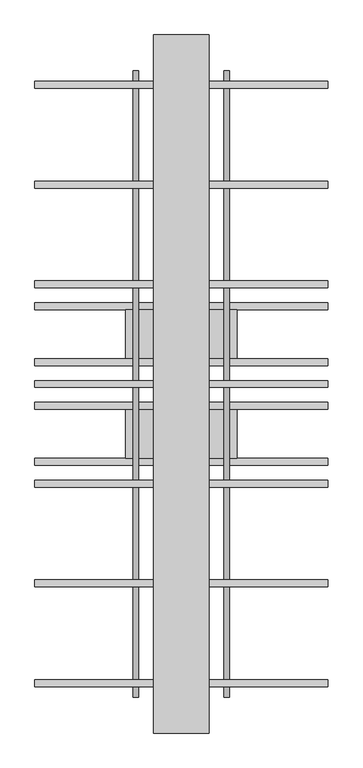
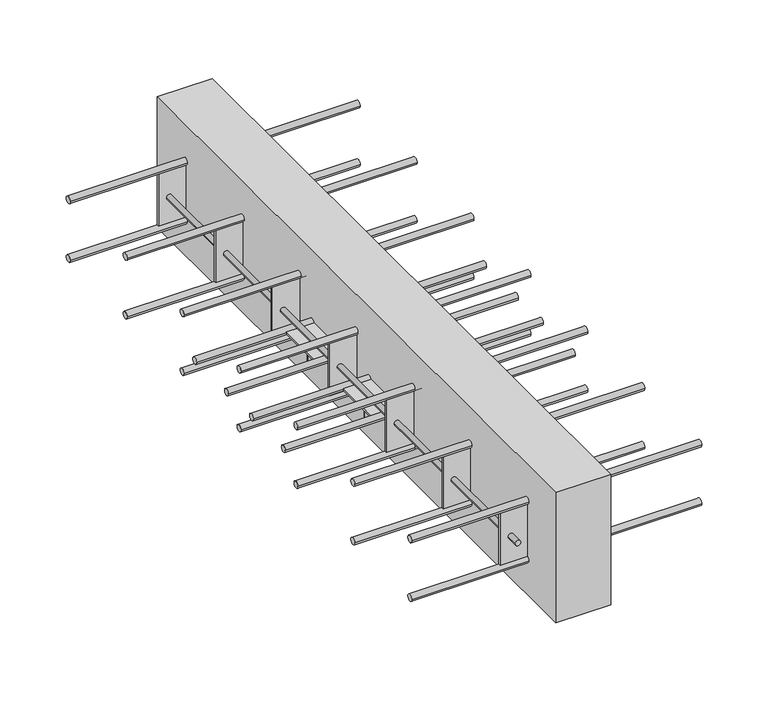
"""IFC4 building model written with IfcOpenShell, lengths in millimetres: fastener geometry, ACINOXplus_Typenreihe_Q : QF+ S2."""

import ifcopenshell
import ifcopenshell.guid

model = None  # the IFC model being written
_history = None  # IfcOwnerHistory: only IFC2X3 demands one
_inside = {}  # id of a spatial element -> (the spatial element, [elements in it])
_under = {}  # id of a project, library or spatial element -> (it, [spatial elements below it])
_declared = {}  # id of a project -> (the project, [libraries it declares])
_typed = {}  # id of a type object -> (the type object, [elements of that type])
_made_of = {}  # id of a material, layer set ... -> (it, [elements and type objects made of it])


def new_model(schema):
    """Start an empty IFC model of exactly this schema.

    Asked for "IFC4X3", IfcOpenShell would pick the latest addendum, in which some entities
    have other attributes; the version numbers below select the first issue.
    IFC2X3 requires an IfcOwnerHistory on every rooted entity: one is made here for all.
    """
    global model, _history
    if schema == "IFC4X3":
        model = ifcopenshell.file(schema_version=(4, 3, 0, 0))
    else:
        model = ifcopenshell.file(schema=schema)
    _inside.clear()
    _under.clear()
    _declared.clear()
    _typed.clear()
    _made_of.clear()
    _history = None
    if model.schema == "IFC2X3":
        org = make("IfcOrganization", Name="unknown")
        user = make(
            "IfcPersonAndOrganization",
            ThePerson=make("IfcPerson", FamilyName="unknown"),
            TheOrganization=org,
        )
        app = make(
            "IfcApplication",
            ApplicationDeveloper=org,
            Version="unknown",
            ApplicationFullName="unknown",
            ApplicationIdentifier="unknown",
        )
        _history = make(
            "IfcOwnerHistory",
            OwningUser=user,
            OwningApplication=app,
            ChangeAction="ADDED",
            CreationDate=0,
        )
    return model


def make(cls, **values):
    """One entity of the class cls with the attributes given. An attribute that is None is left unset."""
    return model.create_entity(
        cls, **{name: value for name, value in values.items() if value is not None}
    )


def rooted(cls, **values):
    """An entity with a GlobalId (a new one), such as an element, a storey or a relation."""
    return make(cls, GlobalId=ifcopenshell.guid.new(), OwnerHistory=_history, **values)


def si_unit(unit_type, name, prefix=None):
    """IfcSIUnit, for example si_unit("LENGTHUNIT", "METRE", prefix="MILLI")."""
    return make("IfcSIUnit", UnitType=unit_type, Prefix=prefix, Name=name)


def assignment(units):
    """IfcUnitAssignment: the units of a project."""
    return None if units is None else make("IfcUnitAssignment", Units=units)


def point(xyz):
    """IfcCartesianPoint."""
    return None if xyz is None else make("IfcCartesianPoint", Coordinates=xyz)


def direction(xyz):
    """IfcDirection."""
    return None if xyz is None else make("IfcDirection", DirectionRatios=xyz)


def frame(location, z_axis=None, x_axis=None):
    """IfcAxis2Placement3D, a coordinate frame: its origin and axes. An axis left out is left unset."""
    return make(
        "IfcAxis2Placement3D",
        Location=point(location),
        Axis=direction(z_axis),
        RefDirection=direction(x_axis),
    )


def frame_2d(location, x_axis=None):
    """IfcAxis2Placement2D, a coordinate frame in the plane: its origin and x axis."""
    return make(
        "IfcAxis2Placement2D", Location=point(location), RefDirection=direction(x_axis)
    )


def origin():
    """The frame at (0, 0, 0) with its axes left unset."""
    return frame((0.0, 0.0, 0.0))


def place(relative_to, where):
    """IfcLocalPlacement: puts the frame where relative to a parent placement (None: the world)."""
    return make(
        "IfcLocalPlacement", PlacementRelTo=relative_to, RelativePlacement=where
    )


def context(
    kind, dimensions, precision=None, world=None, true_north=None, identifier=None
):
    """IfcGeometricRepresentationContext, for example the 3D "Model" context."""
    return make(
        "IfcGeometricRepresentationContext",
        ContextIdentifier=identifier,
        ContextType=kind,
        CoordinateSpaceDimension=dimensions,
        Precision=precision,
        WorldCoordinateSystem=world,
        TrueNorth=true_north,
    )


def project(units=None, contexts=None):
    """IfcProject with its units and contexts."""
    return rooted(
        "IfcProject",
        Name="project",
        RepresentationContexts=contexts,
        UnitsInContext=assignment(units),
    )


def spatial(cls, under=None, at=None, **own):
    """A site, building, storey or space (cls), placed at a placement, below another one or the project."""
    s = rooted(cls, ObjectPlacement=at, **own)
    if under is not None:
        _under.setdefault(under.id(), (under, []))[1].append(s)
    return s


def polyline(points):
    """IfcPolyline through the points."""
    return make("IfcPolyline", Points=[point(p) for p in points])


def circle_curve(where, radius):
    """IfcCircle in the frame where."""
    return make("IfcCircle", Position=where, Radius=radius)


def trimmed(basis, trim1, trim2, sense, master):
    """IfcTrimmedCurve: the piece of a basis curve between two trims."""
    return make(
        "IfcTrimmedCurve",
        BasisCurve=basis,
        Trim1=trim1,
        Trim2=trim2,
        SenseAgreement=sense,
        MasterRepresentation=master,
    )


def segment(curve, same_sense, transition):
    """IfcCompositeCurveSegment."""
    return make(
        "IfcCompositeCurveSegment",
        Transition=transition,
        SameSense=same_sense,
        ParentCurve=curve,
    )


def composite_curve(segments, self_intersect=None):
    """IfcCompositeCurve: segments joined end to end."""
    return make("IfcCompositeCurve", Segments=segments, SelfIntersect=self_intersect)


def outline(outer, holes=None, kind="AREA"):
    """IfcArbitraryClosedProfileDef: a profile drawn as a closed curve; with holes, ...WithVoids."""
    if holes is None:
        return make("IfcArbitraryClosedProfileDef", ProfileType=kind, OuterCurve=outer)
    return make(
        "IfcArbitraryProfileDefWithVoids",
        ProfileType=kind,
        OuterCurve=outer,
        InnerCurves=holes,
    )


def extrude(swept, where, along, depth):
    """IfcExtrudedAreaSolid: the profile swept, set in the frame where, extruded along a direction by depth."""
    return make(
        "IfcExtrudedAreaSolid",
        SweptArea=swept,
        Position=where,
        ExtrudedDirection=direction(along),
        Depth=depth,
    )


def shape(context_of_items, identifier, shape_type, items):
    """IfcShapeRepresentation: the items that make up one representation, for example the "Body"."""
    return make(
        "IfcShapeRepresentation",
        ContextOfItems=context_of_items,
        RepresentationIdentifier=identifier,
        RepresentationType=shape_type,
        Items=items,
    )


def source(mapping_origin, context_of_items, identifier, shape_type, items):
    """IfcRepresentationMap: a shape defined once, which mapped items show again and again."""
    return make(
        "IfcRepresentationMap",
        MappingOrigin=mapping_origin,
        MappedRepresentation=shape(context_of_items, identifier, shape_type, items),
    )


def transform(
    local_origin,
    x_axis=None,
    y_axis=None,
    z_axis=None,
    scale=None,
    scale2=None,
    scale3=None,
    uniform=True,
):
    """IfcCartesianTransformationOperator3D, or its non-uniform kind. x_axis, y_axis, z_axis: its Axis1, 2, 3."""
    if uniform:
        return make(
            "IfcCartesianTransformationOperator3D",
            Axis1=direction(x_axis),
            Axis2=direction(y_axis),
            LocalOrigin=point(local_origin),
            Scale=scale,
            Axis3=direction(z_axis),
        )
    return make(
        "IfcCartesianTransformationOperator3DnonUniform",
        Axis1=direction(x_axis),
        Axis2=direction(y_axis),
        LocalOrigin=point(local_origin),
        Scale=scale,
        Axis3=direction(z_axis),
        Scale2=scale2,
        Scale3=scale3,
    )


def mapped(mapping_source, mapping_target):
    """IfcMappedItem: shows the shape of a source again, moved by a transform."""
    return make(
        "IfcMappedItem", MappingSource=mapping_source, MappingTarget=mapping_target
    )


def made_of(thing, what):
    """Note that an element or type object is made of a material, layer set ...; save() writes the relation."""
    if what is not None:
        _made_of.setdefault(what.id(), (what, []))[1].append(thing)
    return thing


def element(
    cls,
    number,
    at=None,
    inside=None,
    cuts=None,
    type_object=None,
    material=None,
    context=None,
    identifier="Body",
    shape_type=None,
    held_by="IfcProductDefinitionShape",
    body=None,
    shapes=None,
    **own,
):
    """One element of the class cls, such as IfcWall. Its Tag is "e" and its number.

    at: its placement. inside: the storey or other place that contains it. cuts: it is an
    opening in that element (IfcRelVoidsElement). A single representation is given by context,
    identifier, shape_type and body (its items); several are given by shapes. held_by: the class
    of the entity that holds the representations. save() writes the other relations.
    """
    e = rooted(cls, Tag="e%d" % number, ObjectPlacement=at, **own)
    if body is not None:
        shapes = [shape(context, identifier, shape_type, body)]
    if shapes is not None:
        e.Representation = make(held_by, Representations=shapes)
    if inside is not None:
        _inside.setdefault(inside.id(), (inside, []))[1].append(e)
    if cuts is not None:
        rooted(
            "IfcRelVoidsElement", RelatingBuildingElement=cuts, RelatedOpeningElement=e
        )
    if type_object is not None:
        _typed.setdefault(type_object.id(), (type_object, []))[1].append(e)
    return made_of(e, material)


def aggregate(whole, parts):
    """IfcRelAggregates: a whole, such as a stair, and the parts it consists of."""
    return rooted("IfcRelAggregates", RelatingObject=whole, RelatedObjects=parts)


def save(model, path):
    """Write the relations noted so far, then the file.

    IfcRelAggregates (storeys below a building ...), IfcRelContainedInSpatialStructure (elements
    in a storey), IfcRelDefinesByType, IfcRelAssociatesMaterial and IfcRelDeclares: one each for
    every whole, place, type object, material and project.
    """
    for whole, parts in _under.values():
        aggregate(whole, parts)
    for where, things in _inside.values():
        rooted(
            "IfcRelContainedInSpatialStructure",
            RelatedElements=things,
            RelatingStructure=where,
        )
    for kind, things in _typed.values():
        rooted("IfcRelDefinesByType", RelatedObjects=things, RelatingType=kind)
    for what, things in _made_of.values():
        rooted("IfcRelAssociatesMaterial", RelatedObjects=things, RelatingMaterial=what)
    for by, libraries in _declared.values():
        rooted("IfcRelDeclares", RelatingContext=by, RelatedDefinitions=libraries)
    model.write(path)


def plane_surface(at):
    """IfcPlane: the flat surface through the origin of the frame at, square to its z axis."""
    return make("IfcPlane", Position=at)


def cylinder_surface(at, radius):
    """IfcCylindricalSurface: all points at the distance radius from the z axis of the frame at."""
    return make("IfcCylindricalSurface", Position=at, Radius=radius)


def advanced_brep(points, edges, surfaces, faces):
    """IfcAdvancedBrep: a solid bounded by faces that lie on surfaces and meet in shared edges.

    An edge is (start, end): straight between two places in points (the first is 0);
    or (start, end, curve); or (start, end, curve, False) where it runs against its curve.
    A face is (place in surfaces, loops), or (place, loops, False) where it looks against
    its surface's normal. A loop lists edges by number (the first is 1), with a minus sign
    where the edge is run from its end to its start. The first loop is the outer one.
    """
    corners = [point(p) for p in points]
    vertices = [make("IfcVertexPoint", VertexGeometry=c) for c in corners]
    made = []
    for start, end, *more in edges:
        made.append(
            make(
                "IfcEdgeCurve",
                EdgeStart=vertices[start],
                EdgeEnd=vertices[end],
                EdgeGeometry=more[0] if more else make("IfcPolyline", Points=[corners[start], corners[end]]),
                SameSense=more[1] if len(more) > 1 else True,
            )
        )
    hull = []
    for where, loops, *sense in faces:
        bounds = []
        for j, loop in enumerate(loops):
            ring = [make("IfcOrientedEdge", EdgeElement=made[abs(k) - 1], Orientation=k > 0) for k in loop]
            bounds.append(
                make(
                    "IfcFaceOuterBound" if j == 0 else "IfcFaceBound",
                    Bound=make("IfcEdgeLoop", EdgeList=ring),
                    Orientation=True,
                )
            )
        hull.append(make("IfcAdvancedFace", Bounds=bounds, FaceSurface=surfaces[where], SameSense=sense[0] if sense else True))
    return make("IfcAdvancedBrep", Outer=make("IfcClosedShell", CfsFaces=hull))


def fastener_4b20fbc9(model_context):
    return source(origin(), model_context, "Body", "SolidModel", [
        extrude(outline(composite_curve([segment(trimmed(circle_curve(frame_2d((-111.4285714, -109.0)), 5.0), [point((-116.4285714, -109.0))], [point((-106.4285714, -109.0))], False, "CARTESIAN"), True, "CONTINUOUS"), segment(trimmed(circle_curve(frame_2d((-111.4285714, -109.0)), 5.0), [point((-106.4285714, -109.0))], [point((-116.4285714, -109.0))], False, "CARTESIAN"), True, "CONTINUOUS")], self_intersect=False)), frame((-210.0, 0.0, 0.0), z_axis=(1.0, 0.0, 0.0), x_axis=(0.0, 1.0, 0.0)), (0.0, 0.0, 1.0), 420.0),
        extrude(outline(composite_curve([segment(trimmed(circle_curve(frame_2d((-31.4285714, -109.0)), 5.0), [point((-36.4285714, -109.0))], [point((-26.4285714, -109.0))], False, "CARTESIAN"), True, "CONTINUOUS"), segment(trimmed(circle_curve(frame_2d((-31.4285714, -109.0)), 5.0), [point((-26.4285714, -109.0))], [point((-36.4285714, -109.0))], False, "CARTESIAN"), True, "CONTINUOUS")], self_intersect=False)), frame((-210.0, 0.0, 0.0), z_axis=(1.0, 0.0, 0.0), x_axis=(0.0, 1.0, 0.0)), (0.0, 0.0, 1.0), 420.0),
        advanced_brep(
        [(-69.0, -71.4285714, -137.0), (-61.0, -71.4285714, -137.0), (61.0, -71.4285714, -137.0), (69.0, -71.4285714, -137.0), (-61.0, -71.4285714, -110.5), (-69.0, -71.4285714, -110.5), (69.0, -71.4285714, -110.5), (61.0, -71.4285714, -110.5), (80.0, -36.4285714, -107.5), (-80.0, -36.4285714, -107.5), (-80.0, -106.4285714, -107.5), (80.0, -106.4285714, -107.5), (80.0, -36.4285714, -110.5), (80.0, -106.4285714, -110.5), (-80.0, -106.4285714, -110.5), (-80.0, -36.4285714, -110.5)],
        [
            (0, 1, circle_curve(frame((-65.0, -71.4285714, -137.0), z_axis=(0.0, 0.0, -1.0), x_axis=(1.0, 0.0, 0.0)), 4.0)),
            (1, 0, circle_curve(frame((-65.0, -71.4285714, -137.0), z_axis=(0.0, 0.0, -1.0), x_axis=(1.0, 0.0, 0.0)), 4.0)),
            (2, 3, circle_curve(frame((65.0, -71.4285714, -137.0), z_axis=(0.0, 0.0, -1.0), x_axis=(1.0, 0.0, 0.0)), 4.0)),
            (3, 2, circle_curve(frame((65.0, -71.4285714, -137.0), z_axis=(0.0, 0.0, -1.0), x_axis=(1.0, 0.0, 0.0)), 4.0)),
            (1, 4),
            (4, 5, circle_curve(frame((-65.0, -71.4285714, -110.5), z_axis=(0.0, 0.0, -1.0), x_axis=(1.0, 0.0, 0.0)), 4.0)),
            (5, 0),
            (5, 4, circle_curve(frame((-65.0, -71.4285714, -110.5), z_axis=(0.0, 0.0, -1.0), x_axis=(1.0, 0.0, 0.0)), 4.0)),
            (3, 6),
            (6, 7, circle_curve(frame((65.0, -71.4285714, -110.5), z_axis=(0.0, 0.0, -1.0), x_axis=(1.0, 0.0, 0.0)), 4.0)),
            (7, 2),
            (7, 6, circle_curve(frame((65.0, -71.4285714, -110.5), z_axis=(0.0, 0.0, -1.0), x_axis=(1.0, 0.0, 0.0)), 4.0)),
            (8, 9),
            (9, 10),
            (10, 11),
            (11, 8),
            (12, 13),
            (13, 14),
            (14, 15),
            (15, 12),
            (8, 12),
            (15, 9),
            (14, 10),
            (13, 11),
        ],
        [
            plane_surface(frame((-61.0, -71.4285714, -137.0), z_axis=(0.0, 0.0, -1.0), x_axis=(0.0, -1.0, 0.0))),
            cylinder_surface(frame((-65.0, -71.4285714, -137.0), z_axis=(0.0, 0.0, 1.0), x_axis=(1.0, 0.0, 0.0)), 4.0),
            cylinder_surface(frame((65.0, -71.4285714, -109.0), z_axis=(0.0, 0.0, 1.0), x_axis=(1.0, 0.0, 0.0)), 4.0),
            plane_surface(frame((-80.0, -36.4285714, -107.5), z_axis=(0.0, 0.0, 1.0), x_axis=(-1.0, 0.0, 0.0))),
            plane_surface(frame((-80.0, -36.4285714, -110.5), z_axis=(0.0, 0.0, -1.0), x_axis=(1.0, 0.0, 0.0))),
            plane_surface(frame((80.0, -36.4285714, -107.5), z_axis=(0.0, 1.0, 0.0), x_axis=(0.0, 0.0, -1.0))),
            plane_surface(frame((-80.0, -36.4285714, -107.5), z_axis=(-1.0, 0.0, 0.0), x_axis=(0.0, 0.0, -1.0))),
            plane_surface(frame((-80.0, -106.4285714, -107.5), z_axis=(0.0, -1.0, 0.0), x_axis=(0.0, 0.0, -1.0))),
            plane_surface(frame((80.0, -106.4285714, -107.5), z_axis=(1.0, 0.0, 0.0), x_axis=(0.0, 0.0, -1.0))),
        ],
        [
            (0, [[1, 2]]),
            (0, [[3, 4]]),
            (1, [[-2, 5, 6, 7]]),
            (1, [[-1, -7, 8, -5]]),
            (2, [[-4, 9, 10, 11]]),
            (2, [[-3, -11, 12, -9]]),
            (3, [[13, 14, 15, 16]]),
            (4, [[17, 18, 19, 20], [-6, -8], [-10, -12]]),
            (5, [[-13, 21, -20, 22]]),
            (6, [[-14, -22, -19, 23]]),
            (7, [[-15, -23, -18, 24]]),
            (8, [[-16, -24, -17, -21]]),
        ],
    ),
        extrude(outline(composite_curve([segment(trimmed(circle_curve(frame_2d((31.4285714, -109.0)), 5.0), [point((26.4285714, -109.0))], [point((36.4285714, -109.0))], False, "CARTESIAN"), True, "CONTINUOUS"), segment(trimmed(circle_curve(frame_2d((31.4285714, -109.0)), 5.0), [point((36.4285714, -109.0))], [point((26.4285714, -109.0))], False, "CARTESIAN"), True, "CONTINUOUS")], self_intersect=False)), frame((-210.0, 0.0, 0.0), z_axis=(1.0, 0.0, 0.0), x_axis=(0.0, 1.0, 0.0)), (0.0, 0.0, 1.0), 420.0),
        extrude(outline(composite_curve([segment(trimmed(circle_curve(frame_2d((111.4285714, -109.0)), 5.0), [point((106.4285714, -109.0))], [point((116.4285714, -109.0))], False, "CARTESIAN"), True, "CONTINUOUS"), segment(trimmed(circle_curve(frame_2d((111.4285714, -109.0)), 5.0), [point((116.4285714, -109.0))], [point((106.4285714, -109.0))], False, "CARTESIAN"), True, "CONTINUOUS")], self_intersect=False)), frame((-210.0, 0.0, 0.0), z_axis=(1.0, 0.0, 0.0), x_axis=(0.0, 1.0, 0.0)), (0.0, 0.0, 1.0), 420.0),
        advanced_brep(
        [(-69.0, 71.4285714, -137.0), (-61.0, 71.4285714, -137.0), (61.0, 71.4285714, -137.0), (69.0, 71.4285714, -137.0), (-61.0, 71.4285714, -110.5), (-69.0, 71.4285714, -110.5), (69.0, 71.4285714, -110.5), (61.0, 71.4285714, -110.5), (80.0, 106.4285714, -107.5), (-80.0, 106.4285714, -107.5), (-80.0, 36.4285714, -107.5), (80.0, 36.4285714, -107.5), (80.0, 106.4285714, -110.5), (80.0, 36.4285714, -110.5), (-80.0, 36.4285714, -110.5), (-80.0, 106.4285714, -110.5)],
        [
            (0, 1, circle_curve(frame((-65.0, 71.4285714, -137.0), z_axis=(0.0, 0.0, -1.0), x_axis=(1.0, 0.0, 0.0)), 4.0)),
            (1, 0, circle_curve(frame((-65.0, 71.4285714, -137.0), z_axis=(0.0, 0.0, -1.0), x_axis=(1.0, 0.0, 0.0)), 4.0)),
            (2, 3, circle_curve(frame((65.0, 71.4285714, -137.0), z_axis=(0.0, 0.0, -1.0), x_axis=(1.0, 0.0, 0.0)), 4.0)),
            (3, 2, circle_curve(frame((65.0, 71.4285714, -137.0), z_axis=(0.0, 0.0, -1.0), x_axis=(1.0, 0.0, 0.0)), 4.0)),
            (1, 4),
            (4, 5, circle_curve(frame((-65.0, 71.4285714, -110.5), z_axis=(0.0, 0.0, -1.0), x_axis=(1.0, 0.0, 0.0)), 4.0)),
            (5, 0),
            (5, 4, circle_curve(frame((-65.0, 71.4285714, -110.5), z_axis=(0.0, 0.0, -1.0), x_axis=(1.0, 0.0, 0.0)), 4.0)),
            (3, 6),
            (6, 7, circle_curve(frame((65.0, 71.4285714, -110.5), z_axis=(0.0, 0.0, -1.0), x_axis=(1.0, 0.0, 0.0)), 4.0)),
            (7, 2),
            (7, 6, circle_curve(frame((65.0, 71.4285714, -110.5), z_axis=(0.0, 0.0, -1.0), x_axis=(1.0, 0.0, 0.0)), 4.0)),
            (8, 9),
            (9, 10),
            (10, 11),
            (11, 8),
            (12, 13),
            (13, 14),
            (14, 15),
            (15, 12),
            (8, 12),
            (15, 9),
            (14, 10),
            (13, 11),
        ],
        [
            plane_surface(frame((-61.0, 71.4285714, -137.0), z_axis=(0.0, 0.0, -1.0), x_axis=(0.0, -1.0, 0.0))),
            cylinder_surface(frame((-65.0, 71.4285714, -137.0), z_axis=(0.0, 0.0, 1.0), x_axis=(1.0, 0.0, 0.0)), 4.0),
            cylinder_surface(frame((65.0, 71.4285714, -109.0), z_axis=(0.0, 0.0, 1.0), x_axis=(1.0, 0.0, 0.0)), 4.0),
            plane_surface(frame((-80.0, 106.4285714, -107.5), z_axis=(0.0, 0.0, 1.0), x_axis=(-1.0, 0.0, 0.0))),
            plane_surface(frame((-80.0, 106.4285714, -110.5), z_axis=(0.0, 0.0, -1.0), x_axis=(1.0, 0.0, 0.0))),
            plane_surface(frame((80.0, 106.4285714, -107.5), z_axis=(0.0, 1.0, 0.0), x_axis=(0.0, 0.0, -1.0))),
            plane_surface(frame((-80.0, 106.4285714, -107.5), z_axis=(-1.0, 0.0, 0.0), x_axis=(0.0, 0.0, -1.0))),
            plane_surface(frame((-80.0, 36.4285714, -107.5), z_axis=(0.0, -1.0, 0.0), x_axis=(0.0, 0.0, -1.0))),
            plane_surface(frame((80.0, 36.4285714, -107.5), z_axis=(1.0, 0.0, 0.0), x_axis=(0.0, 0.0, -1.0))),
        ],
        [
            (0, [[1, 2]]),
            (0, [[3, 4]]),
            (1, [[-2, 5, 6, 7]]),
            (1, [[-1, -7, 8, -5]]),
            (2, [[-4, 9, 10, 11]]),
            (2, [[-3, -11, 12, -9]]),
            (3, [[13, 14, 15, 16]]),
            (4, [[17, 18, 19, 20], [-6, -8], [-10, -12]]),
            (5, [[-13, 21, -20, 22]]),
            (6, [[-14, -22, -19, 23]]),
            (7, [[-15, -23, -18, 24]]),
            (8, [[-16, -24, -17, -21]]),
        ],
    ),
        extrude(outline(polyline([(40.0, 500.0), (40.0, -500.0), (-40.0, -500.0), (-40.0, 500.0), (40.0, 500.0)])), frame((0.0, 0.0, -200.0), z_axis=(0.0, 0.0, 1.0), x_axis=(1.0, 0.0, 0.0)), (0.0, 0.0, 1.0), 200.0),
        extrude(outline(polyline([(80.0, -284.2142857), (80.0, -287.2142857), (-80.0, -287.2142857), (-80.0, -284.2142857), (80.0, -284.2142857)])), frame((0.0, 0.0, -140.0), z_axis=(0.0, 0.0, 1.0), x_axis=(1.0, 0.0, 0.0)), (0.0, 0.0, 1.0), 80.0),
        extrude(outline(polyline([(80.0, -141.3571429), (80.0, -144.3571429), (-80.0, -144.3571429), (-80.0, -141.3571429), (80.0, -141.3571429)])), frame((0.0, 0.0, -140.0), z_axis=(0.0, 0.0, 1.0), x_axis=(1.0, 0.0, 0.0)), (0.0, 0.0, 1.0), 80.0),
        extrude(outline(polyline([(80.0, 1.5), (80.0, -1.5), (-80.0, -1.5), (-80.0, 1.5), (80.0, 1.5)])), frame((0.0, 0.0, -140.0), z_axis=(0.0, 0.0, 1.0), x_axis=(1.0, 0.0, 0.0)), (0.0, 0.0, 1.0), 80.0),
        extrude(outline(polyline([(80.0, 144.3571429), (80.0, 141.3571429), (-80.0, 141.3571429), (-80.0, 144.3571429), (80.0, 144.3571429)])), frame((0.0, 0.0, -140.0), z_axis=(0.0, 0.0, 1.0), x_axis=(1.0, 0.0, 0.0)), (0.0, 0.0, 1.0), 80.0),
        extrude(outline(polyline([(80.0, 287.2142857), (80.0, 284.2142857), (-80.0, 284.2142857), (-80.0, 287.2142857), (80.0, 287.2142857)])), frame((0.0, 0.0, -140.0), z_axis=(0.0, 0.0, 1.0), x_axis=(1.0, 0.0, 0.0)), (0.0, 0.0, 1.0), 80.0),
        extrude(outline(polyline([(80.0, -427.0714286), (80.0, -430.0714286), (-80.0, -430.0714286), (-80.0, -427.0714286), (80.0, -427.0714286)])), frame((0.0, 0.0, -140.0), z_axis=(0.0, 0.0, 1.0), x_axis=(1.0, 0.0, 0.0)), (0.0, 0.0, 1.0), 80.0),
        extrude(outline(polyline([(80.0, 430.0714286), (80.0, 427.0714286), (-80.0, 427.0714286), (-80.0, 430.0714286), (80.0, 430.0714286)])), frame((0.0, 0.0, -140.0), z_axis=(0.0, 0.0, 1.0), x_axis=(1.0, 0.0, 0.0)), (0.0, 0.0, 1.0), 80.0),
        extrude(outline(composite_curve([segment(trimmed(circle_curve(frame_2d((-100.0, -65.0)), 4.0), [point((-100.0, -69.0))], [point((-100.0, -61.0))], False, "CARTESIAN"), True, "CONTINUOUS"), segment(trimmed(circle_curve(frame_2d((-100.0, -65.0)), 4.0), [point((-100.0, -61.0))], [point((-100.0, -69.0))], False, "CARTESIAN"), True, "CONTINUOUS")], self_intersect=False)), frame((0.0, -427.0714286, 0.0), z_axis=(0.0, 1.0, 0.0), x_axis=(0.0, 0.0, 1.0)), (0.0, 0.0, 1.0), 711.2857143),
        extrude(outline(composite_curve([segment(trimmed(circle_curve(frame_2d((-100.0, -65.0)), 4.0), [point((-100.0, -69.0))], [point((-100.0, -61.0))], False, "CARTESIAN"), True, "CONTINUOUS"), segment(trimmed(circle_curve(frame_2d((-100.0, -65.0)), 4.0), [point((-100.0, -61.0))], [point((-100.0, -69.0))], False, "CARTESIAN"), True, "CONTINUOUS")], self_intersect=False)), frame((0.0, 430.0714286, 0.0), z_axis=(0.0, 1.0, 0.0), x_axis=(0.0, 0.0, 1.0)), (0.0, 0.0, 1.0), 18.5),
        extrude(outline(composite_curve([segment(trimmed(circle_curve(frame_2d((-100.0, -65.0)), 4.0), [point((-100.0, -61.0))], [point((-100.0, -69.0))], False, "CARTESIAN"), True, "CONTINUOUS"), segment(trimmed(circle_curve(frame_2d((-100.0, -65.0)), 4.0), [point((-100.0, -69.0))], [point((-100.0, -61.0))], False, "CARTESIAN"), True, "CONTINUOUS")], self_intersect=False)), frame((0.0, -448.5714286, 0.0), z_axis=(0.0, 1.0, 0.0), x_axis=(0.0, 0.0, 1.0)), (0.0, 0.0, 1.0), 18.5),
        extrude(outline(composite_curve([segment(trimmed(circle_curve(frame_2d((-100.0, -65.0)), 4.0), [point((-100.0, -69.0))], [point((-100.0, -61.0))], False, "CARTESIAN"), True, "CONTINUOUS"), segment(trimmed(circle_curve(frame_2d((-100.0, -65.0)), 4.0), [point((-100.0, -61.0))], [point((-100.0, -69.0))], False, "CARTESIAN"), True, "CONTINUOUS")], self_intersect=False)), frame((0.0, 287.2142857, 0.0), z_axis=(0.0, 1.0, 0.0), x_axis=(0.0, 0.0, 1.0)), (0.0, 0.0, 1.0), 139.8571429),
        extrude(outline(composite_curve([segment(trimmed(circle_curve(frame_2d((-100.0, 65.0)), 4.0), [point((-100.0, 61.0))], [point((-100.0, 69.0))], False, "CARTESIAN"), True, "CONTINUOUS"), segment(trimmed(circle_curve(frame_2d((-100.0, 65.0)), 4.0), [point((-100.0, 69.0))], [point((-100.0, 61.0))], False, "CARTESIAN"), True, "CONTINUOUS")], self_intersect=False)), frame((0.0, -427.0714286, 0.0), z_axis=(0.0, 1.0, 0.0), x_axis=(0.0, 0.0, 1.0)), (0.0, 0.0, 1.0), 711.2857143),
        extrude(outline(composite_curve([segment(trimmed(circle_curve(frame_2d((-100.0, 65.0)), 4.0), [point((-100.0, 61.0))], [point((-100.0, 69.0))], False, "CARTESIAN"), True, "CONTINUOUS"), segment(trimmed(circle_curve(frame_2d((-100.0, 65.0)), 4.0), [point((-100.0, 69.0))], [point((-100.0, 61.0))], False, "CARTESIAN"), True, "CONTINUOUS")], self_intersect=False)), frame((0.0, 430.0714286, 0.0), z_axis=(0.0, 1.0, 0.0), x_axis=(0.0, 0.0, 1.0)), (0.0, 0.0, 1.0), 18.5),
        extrude(outline(composite_curve([segment(trimmed(circle_curve(frame_2d((-100.0, 65.0)), 4.0), [point((-100.0, 69.0))], [point((-100.0, 61.0))], False, "CARTESIAN"), True, "CONTINUOUS"), segment(trimmed(circle_curve(frame_2d((-100.0, 65.0)), 4.0), [point((-100.0, 61.0))], [point((-100.0, 69.0))], False, "CARTESIAN"), True, "CONTINUOUS")], self_intersect=False)), frame((0.0, -448.5714286, 0.0), z_axis=(0.0, 1.0, 0.0), x_axis=(0.0, 0.0, 1.0)), (0.0, 0.0, 1.0), 18.5),
        extrude(outline(composite_curve([segment(trimmed(circle_curve(frame_2d((-100.0, 65.0)), 4.0), [point((-100.0, 61.0))], [point((-100.0, 69.0))], False, "CARTESIAN"), True, "CONTINUOUS"), segment(trimmed(circle_curve(frame_2d((-100.0, 65.0)), 4.0), [point((-100.0, 69.0))], [point((-100.0, 61.0))], False, "CARTESIAN"), True, "CONTINUOUS")], self_intersect=False)), frame((0.0, 287.2142857, 0.0), z_axis=(0.0, 1.0, 0.0), x_axis=(0.0, 0.0, 1.0)), (0.0, 0.0, 1.0), 139.8571429),
        extrude(outline(composite_curve([segment(trimmed(circle_curve(frame_2d((142.8571429, -145.0)), 5.0), [point((137.8571429, -145.0))], [point((147.8571429, -145.0))], False, "CARTESIAN"), True, "CONTINUOUS"), segment(trimmed(circle_curve(frame_2d((142.8571429, -145.0)), 5.0), [point((147.8571429, -145.0))], [point((137.8571429, -145.0))], False, "CARTESIAN"), True, "CONTINUOUS")], self_intersect=False)), frame((-210.0, 0.0, 0.0), z_axis=(1.0, 0.0, 0.0), x_axis=(0.0, 1.0, 0.0)), (0.0, 0.0, 1.0), 420.0),
        extrude(outline(composite_curve([segment(trimmed(circle_curve(frame_2d((0.0, -145.0)), 5.0), [point((-5.0, -145.0))], [point((5.0, -145.0))], False, "CARTESIAN"), True, "CONTINUOUS"), segment(trimmed(circle_curve(frame_2d((0.0, -145.0)), 5.0), [point((5.0, -145.0))], [point((-5.0, -145.0))], False, "CARTESIAN"), True, "CONTINUOUS")], self_intersect=False)), frame((-210.0, 0.0, 0.0), z_axis=(1.0, 0.0, 0.0), x_axis=(0.0, 1.0, 0.0)), (0.0, 0.0, 1.0), 420.0),
        extrude(outline(composite_curve([segment(trimmed(circle_curve(frame_2d((-142.8571429, -145.0)), 5.0), [point((-147.8571429, -145.0))], [point((-137.8571429, -145.0))], False, "CARTESIAN"), True, "CONTINUOUS"), segment(trimmed(circle_curve(frame_2d((-142.8571429, -145.0)), 5.0), [point((-137.8571429, -145.0))], [point((-147.8571429, -145.0))], False, "CARTESIAN"), True, "CONTINUOUS")], self_intersect=False)), frame((-210.0, 0.0, 0.0), z_axis=(1.0, 0.0, 0.0), x_axis=(0.0, 1.0, 0.0)), (0.0, 0.0, 1.0), 420.0),
        extrude(outline(composite_curve([segment(trimmed(circle_curve(frame_2d((285.7142857, -145.0)), 5.0), [point((280.7142857, -145.0))], [point((290.7142857, -145.0))], False, "CARTESIAN"), True, "CONTINUOUS"), segment(trimmed(circle_curve(frame_2d((285.7142857, -145.0)), 5.0), [point((290.7142857, -145.0))], [point((280.7142857, -145.0))], False, "CARTESIAN"), True, "CONTINUOUS")], self_intersect=False)), frame((-210.0, 0.0, 0.0), z_axis=(1.0, 0.0, 0.0), x_axis=(0.0, 1.0, 0.0)), (0.0, 0.0, 1.0), 420.0),
        extrude(outline(composite_curve([segment(trimmed(circle_curve(frame_2d((428.5714286, -145.0)), 5.0), [point((423.5714286, -145.0))], [point((433.5714286, -145.0))], False, "CARTESIAN"), True, "CONTINUOUS"), segment(trimmed(circle_curve(frame_2d((428.5714286, -145.0)), 5.0), [point((433.5714286, -145.0))], [point((423.5714286, -145.0))], False, "CARTESIAN"), True, "CONTINUOUS")], self_intersect=False)), frame((-210.0, 0.0, 0.0), z_axis=(1.0, 0.0, 0.0), x_axis=(0.0, 1.0, 0.0)), (0.0, 0.0, 1.0), 420.0),
        extrude(outline(composite_curve([segment(trimmed(circle_curve(frame_2d((-285.7142857, -145.0)), 5.0), [point((-290.7142857, -145.0))], [point((-280.7142857, -145.0))], False, "CARTESIAN"), True, "CONTINUOUS"), segment(trimmed(circle_curve(frame_2d((-285.7142857, -145.0)), 5.0), [point((-280.7142857, -145.0))], [point((-290.7142857, -145.0))], False, "CARTESIAN"), True, "CONTINUOUS")], self_intersect=False)), frame((-210.0, 0.0, 0.0), z_axis=(1.0, 0.0, 0.0), x_axis=(0.0, 1.0, 0.0)), (0.0, 0.0, 1.0), 420.0),
        extrude(outline(composite_curve([segment(trimmed(circle_curve(frame_2d((-428.5714286, -145.0)), 5.0), [point((-433.5714286, -145.0))], [point((-423.5714286, -145.0))], False, "CARTESIAN"), True, "CONTINUOUS"), segment(trimmed(circle_curve(frame_2d((-428.5714286, -145.0)), 5.0), [point((-423.5714286, -145.0))], [point((-433.5714286, -145.0))], False, "CARTESIAN"), True, "CONTINUOUS")], self_intersect=False)), frame((-210.0, 0.0, 0.0), z_axis=(1.0, 0.0, 0.0), x_axis=(0.0, 1.0, 0.0)), (0.0, 0.0, 1.0), 420.0),
        extrude(outline(composite_curve([segment(trimmed(circle_curve(frame_2d((142.8571429, -55.0)), 5.0), [point((137.8571429, -55.0))], [point((147.8571429, -55.0))], False, "CARTESIAN"), True, "CONTINUOUS"), segment(trimmed(circle_curve(frame_2d((142.8571429, -55.0)), 5.0), [point((147.8571429, -55.0))], [point((137.8571429, -55.0))], False, "CARTESIAN"), True, "CONTINUOUS")], self_intersect=False)), frame((-210.0, 0.0, 0.0), z_axis=(1.0, 0.0, 0.0), x_axis=(0.0, 1.0, 0.0)), (0.0, 0.0, 1.0), 420.0),
        extrude(outline(composite_curve([segment(trimmed(circle_curve(frame_2d((0.0, -55.0)), 5.0), [point((-5.0, -55.0))], [point((5.0, -55.0))], False, "CARTESIAN"), True, "CONTINUOUS"), segment(trimmed(circle_curve(frame_2d((0.0, -55.0)), 5.0), [point((5.0, -55.0))], [point((-5.0, -55.0))], False, "CARTESIAN"), True, "CONTINUOUS")], self_intersect=False)), frame((-210.0, 0.0, 0.0), z_axis=(1.0, 0.0, 0.0), x_axis=(0.0, 1.0, 0.0)), (0.0, 0.0, 1.0), 420.0),
        extrude(outline(composite_curve([segment(trimmed(circle_curve(frame_2d((-142.8571429, -55.0)), 5.0), [point((-147.8571429, -55.0))], [point((-137.8571429, -55.0))], False, "CARTESIAN"), True, "CONTINUOUS"), segment(trimmed(circle_curve(frame_2d((-142.8571429, -55.0)), 5.0), [point((-137.8571429, -55.0))], [point((-147.8571429, -55.0))], False, "CARTESIAN"), True, "CONTINUOUS")], self_intersect=False)), frame((-210.0, 0.0, 0.0), z_axis=(1.0, 0.0, 0.0), x_axis=(0.0, 1.0, 0.0)), (0.0, 0.0, 1.0), 420.0),
        extrude(outline(composite_curve([segment(trimmed(circle_curve(frame_2d((285.7142857, -55.0)), 5.0), [point((280.7142857, -55.0))], [point((290.7142857, -55.0))], False, "CARTESIAN"), True, "CONTINUOUS"), segment(trimmed(circle_curve(frame_2d((285.7142857, -55.0)), 5.0), [point((290.7142857, -55.0))], [point((280.7142857, -55.0))], False, "CARTESIAN"), True, "CONTINUOUS")], self_intersect=False)), frame((-210.0, 0.0, 0.0), z_axis=(1.0, 0.0, 0.0), x_axis=(0.0, 1.0, 0.0)), (0.0, 0.0, 1.0), 420.0),
        extrude(outline(composite_curve([segment(trimmed(circle_curve(frame_2d((428.5714286, -55.0)), 5.0), [point((423.5714286, -55.0))], [point((433.5714286, -55.0))], False, "CARTESIAN"), True, "CONTINUOUS"), segment(trimmed(circle_curve(frame_2d((428.5714286, -55.0)), 5.0), [point((433.5714286, -55.0))], [point((423.5714286, -55.0))], False, "CARTESIAN"), True, "CONTINUOUS")], self_intersect=False)), frame((-210.0, 0.0, 0.0), z_axis=(1.0, 0.0, 0.0), x_axis=(0.0, 1.0, 0.0)), (0.0, 0.0, 1.0), 420.0),
        extrude(outline(composite_curve([segment(trimmed(circle_curve(frame_2d((-285.7142857, -55.0)), 5.0), [point((-290.7142857, -55.0))], [point((-280.7142857, -55.0))], False, "CARTESIAN"), True, "CONTINUOUS"), segment(trimmed(circle_curve(frame_2d((-285.7142857, -55.0)), 5.0), [point((-280.7142857, -55.0))], [point((-290.7142857, -55.0))], False, "CARTESIAN"), True, "CONTINUOUS")], self_intersect=False)), frame((-210.0, 0.0, 0.0), z_axis=(1.0, 0.0, 0.0), x_axis=(0.0, 1.0, 0.0)), (0.0, 0.0, 1.0), 420.0),
        extrude(outline(composite_curve([segment(trimmed(circle_curve(frame_2d((-428.5714286, -55.0)), 5.0), [point((-433.5714286, -55.0))], [point((-423.5714286, -55.0))], False, "CARTESIAN"), True, "CONTINUOUS"), segment(trimmed(circle_curve(frame_2d((-428.5714286, -55.0)), 5.0), [point((-423.5714286, -55.0))], [point((-433.5714286, -55.0))], False, "CARTESIAN"), True, "CONTINUOUS")], self_intersect=False)), frame((-210.0, 0.0, 0.0), z_axis=(1.0, 0.0, 0.0), x_axis=(0.0, 1.0, 0.0)), (0.0, 0.0, 1.0), 420.0),
    ])


if __name__ == "__main__":
    model = new_model("IFC4")
    model_context = context("Model", 3, world=origin())
    ifc_project = project(units=[si_unit("LENGTHUNIT", "METRE", prefix="MILLI")], contexts=[model_context])
    site = spatial("IfcSite", under=ifc_project)
    building = spatial("IfcBuilding", under=site)
    placement = place(None, origin())
    fastener_shape = fastener_4b20fbc9(model_context)
    element("IfcFastener", 1, ObjectType="ACINOXplus_Typenreihe_Q : QF+ S2", at=placement, inside=building, context=model_context, shape_type="MappedRepresentation", body=[
        mapped(fastener_shape, transform((0.0, 0.0, 0.0), x_axis=(1.0, 0.0, 0.0), y_axis=(0.0, 1.0, 0.0), z_axis=(0.0, 0.0, 1.0))),
    ])
    save(model, "model.ifc")
